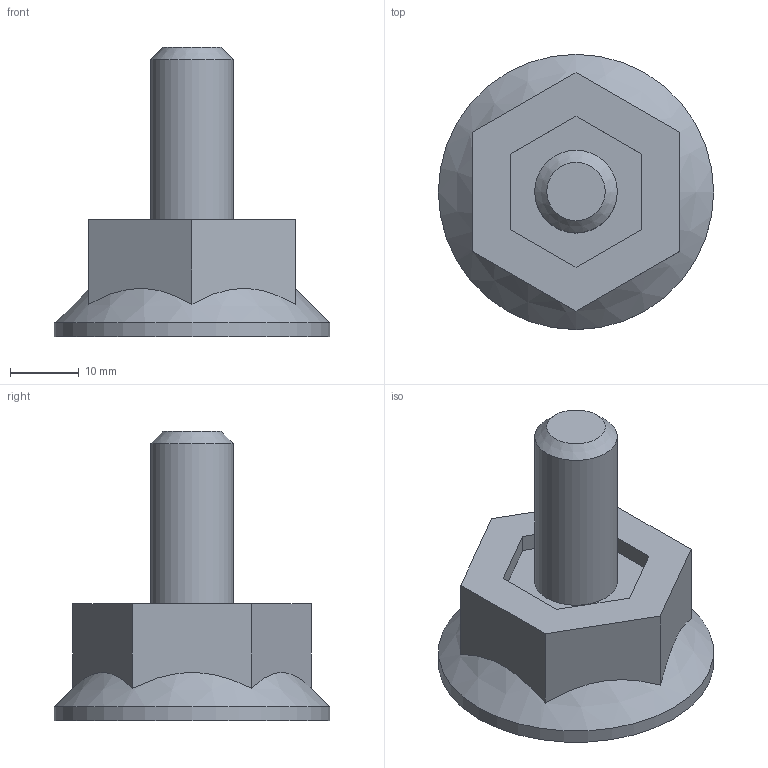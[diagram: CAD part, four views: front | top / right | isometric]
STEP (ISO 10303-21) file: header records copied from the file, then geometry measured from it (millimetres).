
FILE_DESCRIPTION( ('This file contains a STEP AP42 implementation' ,'as created by ZW3D STEP Interface translator.') ,'2;1' );
FILE_NAME( 'Stopka stala D40.stp' ,'26 812.15 818', (''), ('ZWCAD Software Co.'), 'Version 1.0', 'ZW3D to STEP translator', '' );
FILE_SCHEMA(('AP242_MANAGED_MODEL_BASED_3D_ENGINEERING_MIM_LF { 1 0 10303 442 1 1 4 }'));
Length unit declared in the file: millimetre
Products named in the file (1): 0
Bounding box: 40 x 40 x 42 mm (x, y, z)
Volume: 17478 mm3; surface area: 6855.4 mm2
Topology: 2 solids, 2 shells, 28 faces, 64 edges, 42 vertices
Faces by surface type: plane 24, cylinder 2, cone 2
Full cylindrical faces by diameter (mm): 12 x1, 40 x1
Entity records: 823 total; most frequent: CARTESIAN_POINT 149, ORIENTED_EDGE 128, DIRECTION 120, EDGE_CURVE 64, VECTOR 52, LINE 52, VERTEX_POINT 42, AXIS2_PLACEMENT_3D 34
